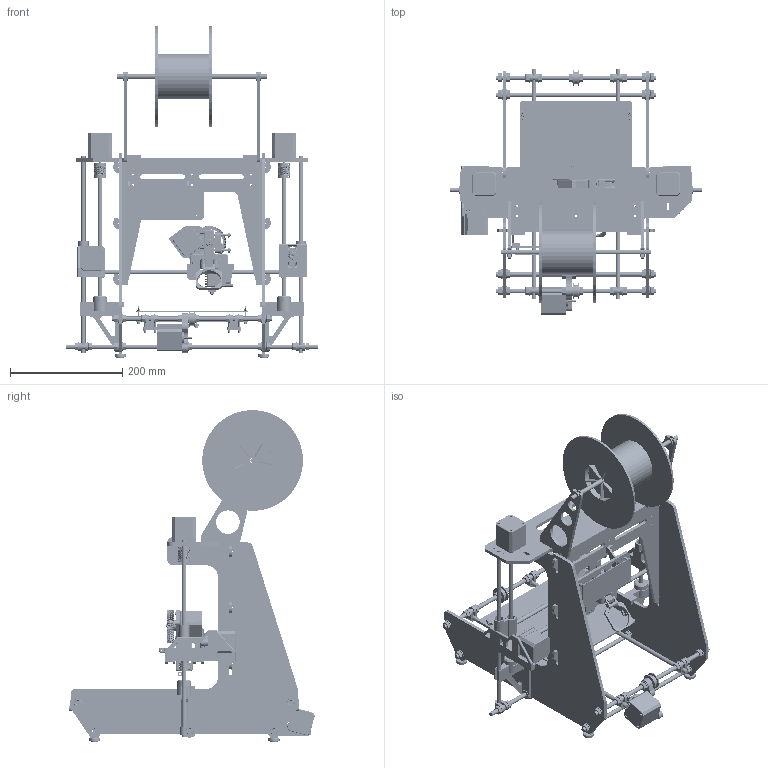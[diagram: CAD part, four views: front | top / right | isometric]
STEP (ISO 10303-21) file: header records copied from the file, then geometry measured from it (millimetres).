
FILE_DESCRIPTION((''),'2;1');
FILE_NAME('C:\Users\Phil\SkyDrive\3D print\Air 2\3dCAD format files\Phils Air 2.0 3d printer.stp','2014-02-23T01:19:34',('Phil'),(''),'Autodesk Inventor 2010','Autodesk Inventor 2010','');
FILE_SCHEMA(('AUTOMOTIVE_DESIGN { 1 0 10303 214 1 1 1 1 }'));
Length unit declared in the file: millimetre
Products named in the file (107): Air 2; Y carriage; print bed base plate; Comu - Rodamiento LM8UU; LM8 clamp plate; y belt clamp; HEATED BED; DIN 912 - replaced by DIN EN ISO 4762 M2.5 x 25; DIN 125-1 A A 2.8; DIN EN 24032 M2.5; DIN 912 - replaced by DIN EN ISO 4762 M2.5 x 16; JIS B 1185 Type 1 - Metric M2.5; Comu - Tuercas; Comu - Tuerca M8; Comu - Arandelas; Comu - Arandela M8; Estr - Medio; Frame top plate; Estr - Lateral; Estr - Varillas; Estr - Varilla Roscada Corta; Estr - Varilla Roscada EjeZ; Estr - Escuadras; Estr - Escuadra; Estr - Pinzas Varillas; Estr - Pinza Varilla; Comu - Motores; Comu - NEMA 17; EjeZ - Varillas; EjeZ - Varilla Lisa Eje Z; EjeY - Varillas; EjeY - Varilla Lisa Eje Y; EjeY - SujetaMotor; Comu - Rodamiento Completo; Comu - Rodamientos Axiales 608zz; Comu - Poleas; EjeZ - Varilla Roscada ; spool holder PM; spool holder PM_MIR; Z flex coupling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
Assembly tree (390 placements, depth 4):
  Air 2
    Y carriage
      print bed base plate
      Comu - Rodamiento LM8UU  x4
      LM8 clamp plate  x4
      y belt clamp  x2
      HEATED BED
      DIN 912 - replaced by DIN EN ISO 4762 M2.5 x 25  x20
      DIN 125-1 A A 2.8  x52
      DIN EN 24032 M2.5  x24
      DIN 912 - replaced by DIN EN ISO 4762 M2.5 x 16  x4
      JIS B 1185 Type 1 - Metric M2.5  x4
    Comu - Tuercas
      Comu - Tuerca M8  x36
    Comu - Arandelas
      Comu - Arandela M8  x37
    Estr - Medio
    Frame top plate
    Estr - Lateral  x2
    Estr - Varillas
      Estr - Varilla Roscada Corta  x4
      Estr - Varilla Roscada EjeZ
    Estr - Escuadras
      Estr - Escuadra  x3
    Estr - Pinzas Varillas
      Estr - Pinza Varilla  x6
    Comu - Motores
      Comu - NEMA 17  x3
    EjeZ - Varillas
      EjeZ - Varilla Lisa Eje Z  x2
    EjeY - Varillas
      EjeY - Varilla Lisa Eje Y  x2
    EjeY - SujetaMotor
    Comu - Rodamiento Completo  x2
      Comu - Rodamientos Axiales 608zz
      Comu - Poleas
    EjeZ - Varilla Roscada   x2
    spool holder PM
    spool holder PM_MIR
    Z flex coupling  x2
    spool threaded rod
    spool
    Z lower stabilser
    Z ROD CAP  x2
    Z lower stabilser_MIR
    Assemblyrev 1
      rev1 base
      bracket r1  x2
      Nylon stand off  x4
      Gen 6 d PCB rev2
    DIN 125-1 A A 8.4  x6
    DIN 439-2 - replaced by DIN EN 24035/28675 M8  x2
    foot pads  x4
      feet pads
      rubber pad
    PM x carriage
      PM X end motor RHD
        rev 2
        PM Nema 17
        GT 2 pulley
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Bounding box: 450 x 437.87 x 592 mm (x, y, z)
Volume: 3283597.8 mm3; surface area: 1338675.8 mm2
Topology: 398 solids, 398 shells, 10468 faces, 22608 edges, 12677 vertices
Faces by surface type: plane 6520, cylinder 2314, bspline 985, cone 334, torus 251, sphere 64
Full cylindrical faces by diameter (mm): 0.4 x1, 0.909 x2, 1 x1, 1.5 x4, 2 x4, 2.013 x4, 2.5 x36, 2.6 x32, 2.8 x52, 3 x126, 3.2 x40, 3.242 x1, 3.4 x28, 3.5 x2, 3.621 x4, 3.781 x2, 4 x47, 4.2 x14, 4.3 x10, 4.5 x28, 4.525 x2, 4.6 x4, 5 x5, 5.2 x8, 5.5 x12, 5.6 x18, 5.8 x8, 5.9 x4, 6 x4, 7 x64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
Entity records: 175534 total; most frequent: CARTESIAN_POINT 39762, DIRECTION 26094, ORIENTED_EDGE 25202, EDGE_CURVE 12601, VECTOR 9382, LINE 9382, AXIS2_PLACEMENT_3D 8356, EDGE_LOOP 7337
